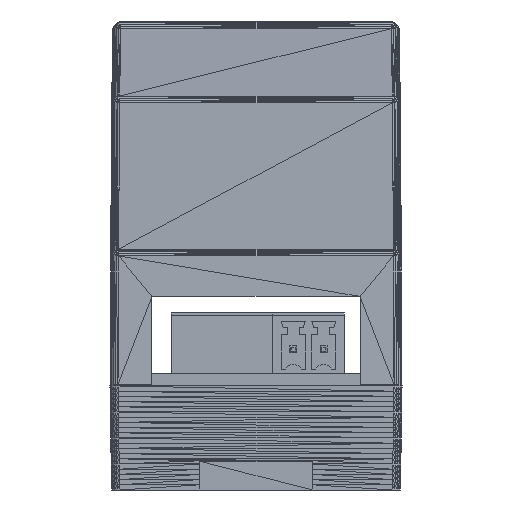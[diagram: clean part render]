
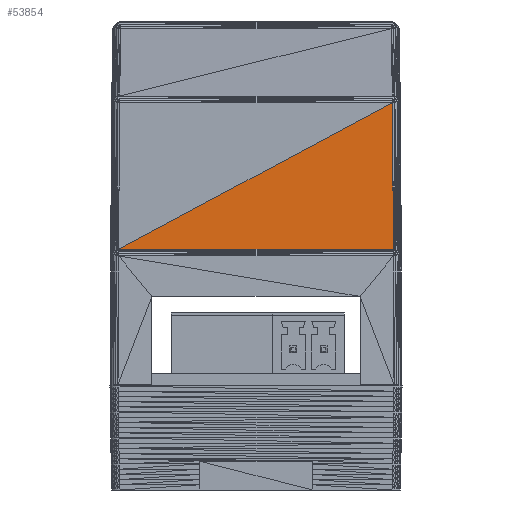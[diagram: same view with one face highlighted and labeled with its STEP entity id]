
A CAD part, left-side view. The second image highlights one B-rep face of the part: STEP entity #53854.
In plain terms, the highlighted planar face has unit normal (-1, 0, 0.012).
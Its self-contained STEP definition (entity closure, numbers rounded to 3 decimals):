
#2484=FACE_OUTER_BOUND('',#7024,.T.);
#7024=EDGE_LOOP('',(#39418,#39419,#39420));
#12769=LINE('',#83689,#19781);
#12798=LINE('',#83751,#19810);
#13080=LINE('',#84288,#20092);
#19781=VECTOR('',#68006,1.);
#19810=VECTOR('',#68099,1.);
#20092=VECTOR('',#68711,1.);
#24676=VERTEX_POINT('',#82448);
#24704=VERTEX_POINT('',#82551);
#24915=VERTEX_POINT('',#83687);
#29331=EDGE_CURVE('',#24915,#24704,#12769,.T.);
#29360=EDGE_CURVE('',#24676,#24915,#12798,.T.);
#29642=EDGE_CURVE('',#24704,#24676,#13080,.T.);
#39418=ORIENTED_EDGE('',*,*,#29642,.F.);
#39419=ORIENTED_EDGE('',*,*,#29331,.F.);
#39420=ORIENTED_EDGE('',*,*,#29360,.F.);
#49336=PLANE('',#58446);
#53854=ADVANCED_FACE('',(#2484),#49336,.T.);
#58446=AXIS2_PLACEMENT_3D('',#84289,#68712,#68713);
#68006=DIRECTION('',(0.,1.,0.));
#68099=DIRECTION('',(-0.012,-0.007,-1.));
#68711=DIRECTION('',(0.006,-0.882,0.472));
#68712=DIRECTION('center_axis',(-1.,0.,0.012));
#68713=DIRECTION('ref_axis',(-0.012,0.,-1.));
#82448=CARTESIAN_POINT('',(-30.438,-17.05,35.406));
#82551=CARTESIAN_POINT('',(-30.653,17.17,17.088));
#83687=CARTESIAN_POINT('',(-30.653,-17.17,17.088));
#83689=CARTESIAN_POINT('',(-30.653,-17.17,17.088));
#83751=CARTESIAN_POINT('',(-30.438,-17.05,35.406));
#84288=CARTESIAN_POINT('',(-30.653,17.17,17.088));
#84289=CARTESIAN_POINT('Origin',(-30.586,-3.401,22.809));
